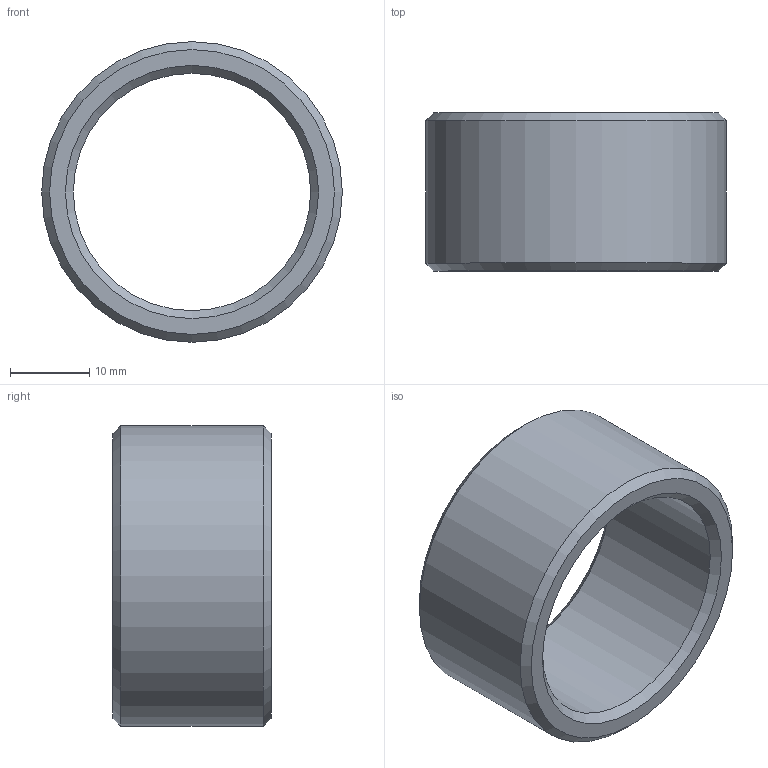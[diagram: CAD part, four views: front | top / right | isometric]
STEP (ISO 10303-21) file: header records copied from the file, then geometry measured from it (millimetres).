
FILE_DESCRIPTION(/* description */ (''),/* implementation_level */ '2;1');
FILE_NAME(/* name */ '',/* time_stamp */ '2026-07-01T11:13:31+09:00',/* author */ ('jhkim'),/* organization */ (''),/* preprocessor_version */ 'ST-DEVELOPER v20.1',/* originating_system */ 'Autodesk Inventor 2027',/* authorisation */ '');
FILE_SCHEMA (('AUTOMOTIVE_DESIGN { 1 0 10303 214 3 1 1 }'));
Length unit declared in the file: millimetre
Products named in the file (1): 칼라
Bounding box: 38 x 20 x 38 mm (x, y, z)
Volume: 8331.5 mm3; surface area: 4876.8 mm2
Topology: 1 solids, 1 shells, 8 faces, 18 edges, 12 vertices
Faces by surface type: cone 4, plane 2, cylinder 2
Full cylindrical faces by diameter (mm): 30 x1, 38 x1
Entity records: 281 total; most frequent: DIRECTION 48, CARTESIAN_POINT 39, ORIENTED_EDGE 36, AXIS2_PLACEMENT_3D 21, EDGE_CURVE 18, CIRCLE 12, VERTEX_POINT 12, EDGE_LOOP 10
